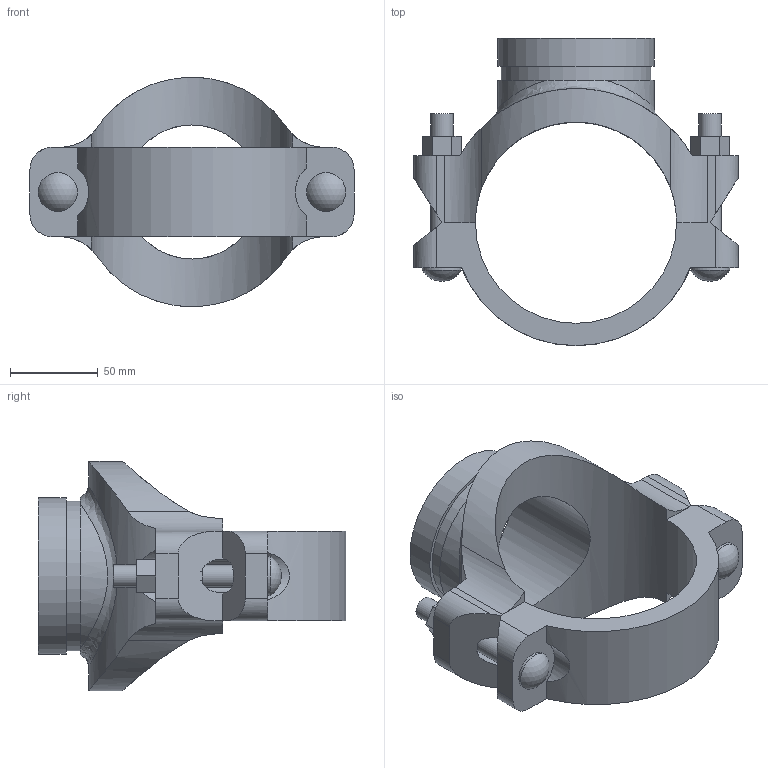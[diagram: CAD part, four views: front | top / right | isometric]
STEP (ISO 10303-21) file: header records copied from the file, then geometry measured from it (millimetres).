
FILE_DESCRIPTION(/* description */ ('VIC SS MECHANICAL T BRANCH OUTLET STYLE 422 (OGS)','CAx-IF Rec.Pracs.---Representation and Presentation of Product Manufacturing Information (PMI)---4.0---2014-10-13'),/* implementation_level */ '2;1');
FILE_NAME(/* name */ 'C:\Files for Export\422\STEP\Victaulic_SS-OGS_Mech-Tee Out_Style 422 (OGS)\Victaulic_SS-OGS_Mech-Tee Out_Style 422 (OGS)_04.0x03.0 (100x80).stp',/* time_stamp */ '2023-03-28T13:59:49+02:00',/* author */ ('jheald'),/* organization */ ('Victaulic'),/* preprocessor_version */ 'ST-DEVELOPER v18.1',/* originating_system */ 'Autodesk Inventor 2020',/* authorisation */ '');
FILE_SCHEMA (('AP242_MANAGED_MODEL_BASED_3D_ENGINEERING_MIM_LF { 1 0 10303 442 1 1 4 }'));
Length unit declared in the file: inch
Products named in the file (1): 422-04.0x03.0
Bounding box: 184.15 x 174.75 x 130.23 mm (x, y, z)
Volume: 551287.1 mm3; surface area: 110755 mm2
Topology: 1 solids, 1 shells, 86 faces, 251 edges, 170 vertices
Faces by surface type: plane 47, cylinder 36, sphere 2, bspline 1
Full cylindrical faces by diameter (mm): 12.7 x4, 22.225 x2, 76.2 x1, 84.938 x1, 88.9 x1, 114.3 x1
Entity records: 3663 total; most frequent: CARTESIAN_POINT 1104, DIRECTION 510, ORIENTED_EDGE 502, EDGE_CURVE 251, AXIS2_PLACEMENT_3D 184, VERTEX_POINT 170, LINE 142, VECTOR 142
